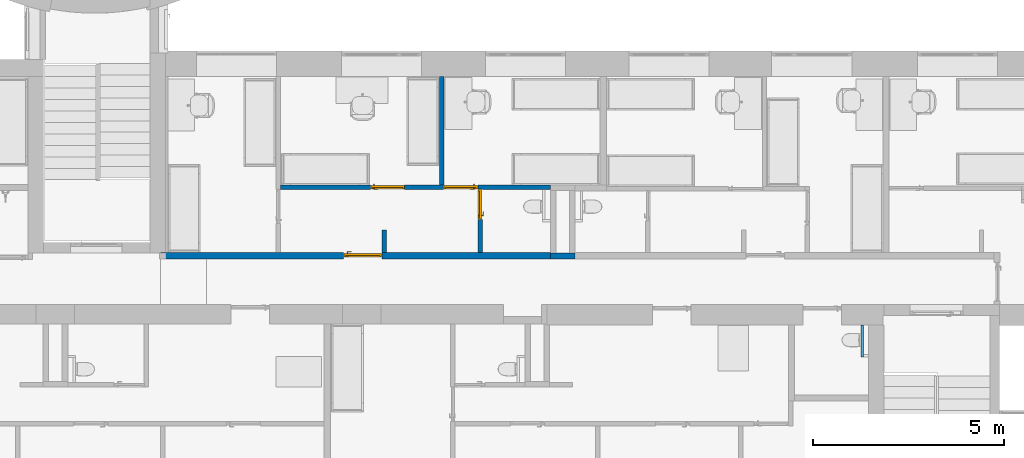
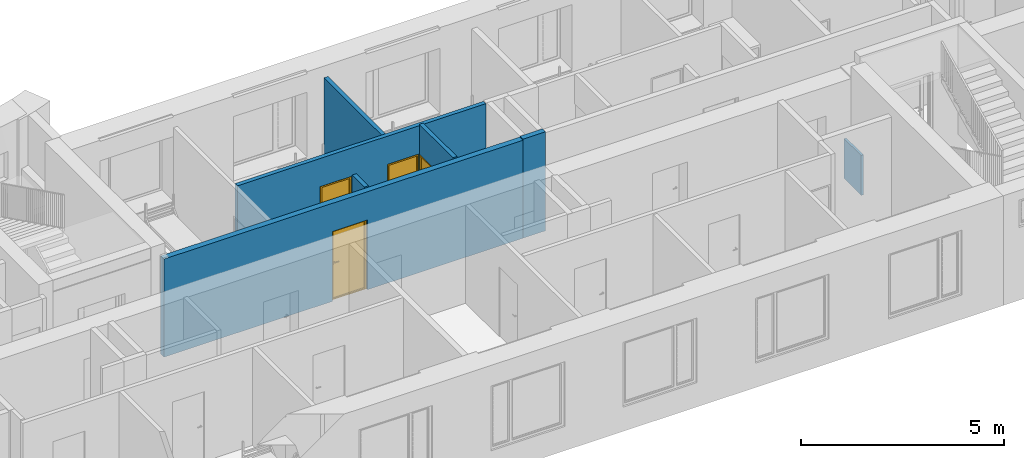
# One storey, part 11 of 46: 7 walls, 4 doors, 5 openings.
"""IFC2X3 building model written with IfcOpenShell, lengths in millimetres."""

from ifc_helpers import new_model, entity, si_unit, converted_unit, derived_unit, direction, frame, frame_2d, origin, place, context, subcontext, project, spatial, rectangle, extrude, faceted_brep, source, transform, mapped, material, material_list, layer, layer_set, layer_usage, type_object, type_shapes, element, fill, save


model = new_model("IFC2X3")

# Units and contexts
model_context = context("Model", 3, precision=0.01, world=origin(), true_north=direction((6.12303176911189e-17, 1.0)))
body_context = subcontext(model_context, "Body", "Model", "MODEL_VIEW")
ifc_project = project(units=[si_unit("LENGTHUNIT", "METRE", prefix="MILLI"), si_unit("AREAUNIT", "SQUARE_METRE"), si_unit("VOLUMEUNIT", "CUBIC_METRE"), converted_unit("PLANEANGLEUNIT", "DEGREE", entity("IfcRatioMeasure", 0.0174532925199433), si_unit("PLANEANGLEUNIT", "RADIAN"), dimensions=[0, 0, 0, 0, 0, 0, 0]), si_unit("MASSUNIT", "GRAM", prefix="KILO"), derived_unit("MASSDENSITYUNIT", [(si_unit("MASSUNIT", "GRAM", prefix="KILO"), 1), (si_unit("LENGTHUNIT", "METRE"), -3)]), si_unit("TIMEUNIT", "SECOND"), si_unit("FREQUENCYUNIT", "HERTZ"), si_unit("THERMODYNAMICTEMPERATUREUNIT", "DEGREE_CELSIUS"), derived_unit("THERMALTRANSMITTANCEUNIT", [(si_unit("MASSUNIT", "GRAM", prefix="KILO"), 1), (si_unit("THERMODYNAMICTEMPERATUREUNIT", "KELVIN"), -1), (si_unit("TIMEUNIT", "SECOND"), -3)]), derived_unit("VOLUMETRICFLOWRATEUNIT", [(si_unit("LENGTHUNIT", "METRE"), 3), (si_unit("TIMEUNIT", "SECOND"), -1)]), si_unit("ELECTRICCURRENTUNIT", "AMPERE"), si_unit("ELECTRICVOLTAGEUNIT", "VOLT"), si_unit("POWERUNIT", "WATT"), si_unit("FORCEUNIT", "NEWTON", prefix="KILO"), si_unit("ILLUMINANCEUNIT", "LUX"), si_unit("LUMINOUSFLUXUNIT", "LUMEN"), si_unit("LUMINOUSINTENSITYUNIT", "CANDELA"), derived_unit("USERDEFINED", [(si_unit("MASSUNIT", "GRAM", prefix="KILO"), -1), (si_unit("LENGTHUNIT", "METRE"), -2), (si_unit("TIMEUNIT", "SECOND"), 3), (si_unit("LUMINOUSFLUXUNIT", "LUMEN"), 1)]), derived_unit("LINEARVELOCITYUNIT", [(si_unit("LENGTHUNIT", "METRE"), 1), (si_unit("TIMEUNIT", "SECOND"), -1)]), si_unit("PRESSUREUNIT", "PASCAL"), derived_unit("USERDEFINED", [(si_unit("LENGTHUNIT", "METRE"), -2), (si_unit("MASSUNIT", "GRAM", prefix="KILO"), 1), (si_unit("TIMEUNIT", "SECOND"), -2)]), derived_unit("LINEARFORCEUNIT", [(si_unit("MASSUNIT", "GRAM", prefix="KILO"), 1), (si_unit("LENGTHUNIT", "METRE"), 1), (si_unit("TIMEUNIT", "SECOND"), -2), (si_unit("LENGTHUNIT", "METRE"), -1)]), derived_unit("PLANARFORCEUNIT", [(si_unit("MASSUNIT", "GRAM", prefix="KILO"), 1), (si_unit("LENGTHUNIT", "METRE"), 1), (si_unit("TIMEUNIT", "SECOND"), -2), (si_unit("LENGTHUNIT", "METRE"), -2)])], contexts=[model_context])

# Site, building, storey
site_placement = place(None, origin())
site = spatial("IfcSite", under=ifc_project, at=site_placement, Name="Default", CompositionType="ELEMENT")
building_placement = place(site_placement, origin())
building = spatial("IfcBuilding", under=site, at=building_placement, Name="SMA ARH", CompositionType="ELEMENT")
storey_placement = place(building_placement, origin())
storey = spatial("IfcBuildingStorey", under=building, at=storey_placement, Name="1 Korrus", CompositionType="ELEMENT", Elevation=0.0)

# Wall
ifc_material_1 = material(Name="EST. Müüritis. Väikeplokk. Kergkruusplokk")
ifc_layer_1 = layer(ifc_material_1, 150.0)
ifc_layer_set_1 = layer_set([ifc_layer_1], Name="Basic Wall:SS-02_ 150mm šahtide vahesein")
ifc_layer_usage_1 = layer_usage(ifc_layer_set_1, "AXIS2", "POSITIVE", -75.0)
wall_type_1 = type_object("IfcWallType", Name="Basic Wall:SS-02_ 150mm šahtide vahesein", PredefinedType="STANDARD", material=ifc_layer_set_1)
wall_1_placement = place(storey_placement, frame((22737.2884818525, 7795.0, 0.0), z_axis=(0.0, 0.0, 1.0), x_axis=(-1.0, 0.0, 0.0)))
element("IfcWallStandardCase", 1, at=wall_1_placement, inside=storey, type_object=wall_type_1, material=ifc_layer_usage_1, Name="Basic Wall:SS-02_ 150mm šahtide vahesein", ObjectType="Basic Wall:SS-02_ 150mm šahtide vahesein", context=body_context, shape_type="SweptSolid", body=[
    extrude(rectangle(XDim=650.000000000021, YDim=150.000000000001, at=frame_2d((325.000000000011, 4.68958205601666e-13), x_axis=(-1.0, 0.0))), origin(), (0.0, 0.0, 1.0), 2979.99999999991),
])

# Wall, opening, door
ifc_material_2 = material(Name="EST. Ehitusplaat. Kipsplaat")
ifc_layer_2 = layer(ifc_material_2, 12.5)
ifc_layer_3 = layer(ifc_material_2, 12.5)
ifc_material_3 = material(Name="EST. Soojustus. Mineraalvill. Default")
ifc_layer_4 = layer(ifc_material_3, 50.0)
ifc_layer_5 = layer(ifc_material_2, 12.5)
ifc_layer_6 = layer(ifc_material_3, 50.0)
ifc_layer_7 = layer(ifc_material_2, 12.5)
ifc_layer_8 = layer(ifc_material_2, 12.5)
ifc_layer_set_2 = layer_set([ifc_layer_2, ifc_layer_3, ifc_layer_4, ifc_layer_5, ifc_layer_6, ifc_layer_7, ifc_layer_8], Name="Basic Wall:SS-04_Kips, 50+50 mm metallkarkass 2")
ifc_layer_usage_2 = layer_usage(ifc_layer_set_2, "AXIS2", "NEGATIVE", 81.25)
wall_type_2 = type_object("IfcWallType", Name="Basic Wall:SS-04_Kips, 50+50 mm metallkarkass 2", PredefinedType="STANDARD", material=ifc_layer_set_2)
wall_2_placement = place(storey_placement, frame((11871.2500000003, 7801.25000000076, 0.0)))
wall_2 = element("IfcWallStandardCase", 2, at=wall_2_placement, inside=storey, type_object=wall_type_2, material=ifc_layer_usage_2, Name="Basic Wall:SS-04_Kips, 50+50 mm metallkarkass 2", ObjectType="Basic Wall:SS-04_Kips, 50+50 mm metallkarkass 2", context=body_context, shape_type="SweptSolid", body=[
    extrude(rectangle(XDim=10216.0384818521, YDim=162.5, at=frame_2d((5108.01924092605, 6.3948846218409e-14), x_axis=(-1.0, 0.0))), origin(), (0.0, 0.0, 1.0), 2949.99999999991),
])
opening_1_placement = place(wall_2_placement, frame((4800.75000000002, -81.2500000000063, 0.0)))
opening_1 = element("IfcOpeningElement", 3, at=opening_1_placement, cuts=wall_2, Name="SMA_D01, 1-poolne:SU-P-04 - 1000x2100 EI-30:1", ObjectType="Opening", context=body_context, shape_type="SweptSolid", body=[
    extrude(rectangle(XDim=2099.99999999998, YDim=1000.0, at=frame_2d((1049.99999999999, 500.0), x_axis=(1.0, 0.0))), frame((0.0, 0.0, 0.0), z_axis=(0.0, 1.0, 0.0), x_axis=(0.0, 0.0, 1.0)), (0.0, 0.0, 1.0), 162.5),
])
ifc_material_4 = material(Name="EST. Metall. Alumiinium. Värvitud. RAL7023 (Concrete grey)")
ifc_material_5 = material(Name="<Unnamed>")
ifc_material_6 = material(Name="EST. Klaas. 3x. Default")
ifc_material_list_1 = material_list([ifc_material_5, ifc_material_6, ifc_material_5, ifc_material_4, ifc_material_5, ifc_material_4, ifc_material_4])
door_style_1 = type_object("IfcDoorStyle", Name="SMA_D01, 1-poolne:SU-P-04 - 1000x2100 EI-30", ConstructionType="NOTDEFINED", OperationType="SINGLE_SWING_RIGHT", ParameterTakesPrecedence=False, Sizeable=False, material=ifc_material_list_1)
shared_shape_1 = source(origin(), body_context, "Body", "Brep", [
    faceted_brep([(110.0, 52.5000000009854, 1112.5), (110.0, 90.5000000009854, 1112.5), (85.0, 90.5000000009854, 1112.5), (85.0, 47.5000000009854, 1112.5), (205.0, 47.5000000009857, 1112.5), (205.0, 52.5000000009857, 1112.5), (110.0, 52.5000000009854, 1087.5), (205.0, 52.5000000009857, 1087.5), (205.0, 47.5000000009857, 1087.5), (85.0, 47.5000000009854, 1087.5), (85.0, 90.5000000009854, 1087.5), (110.0, 90.5000000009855, 1087.5)], [[[0, 1, 2, 3, 4, 5]], [[6, 7, 8, 9, 10, 11]], [[1, 0, 6, 11]], [[2, 1, 11, 10]], [[3, 2, 10, 9]], [[4, 3, 9, 8]], [[5, 4, 8, 7]], [[0, 5, 7, 6]]]),
    faceted_brep([(122.499999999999, 90.5000000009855, 1137.5), (122.499999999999, 92.5000000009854, 1137.5), (72.4999999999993, 92.5000000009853, 1137.5), (72.4999999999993, 90.5000000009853, 1137.5), (122.499999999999, 90.5000000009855, 1017.5), (72.4999999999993, 90.5000000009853, 1017.5), (72.4999999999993, 92.5000000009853, 1017.5), (122.499999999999, 92.5000000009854, 1017.5)], [[[0, 1, 2, 3]], [[4, 5, 6, 7]], [[1, 0, 4, 7]], [[2, 1, 7, 6]], [[3, 2, 6, 5]], [[0, 3, 5, 4]]]),
    faceted_brep([(110.0, 182.500000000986, 1112.5), (205.0, 182.500000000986, 1112.5), (205.0, 187.500000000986, 1112.5), (85.0, 187.500000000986, 1112.5), (85.0, 144.500000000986, 1112.5), (110.0, 144.500000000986, 1112.5), (110.0, 182.500000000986, 1087.5), (110.0, 144.500000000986, 1087.5), (85.0, 144.500000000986, 1087.5), (85.0, 187.500000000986, 1087.5), (205.0, 187.500000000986, 1087.5), (205.0, 182.500000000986, 1087.5)], [[[0, 1, 2, 3, 4, 5]], [[6, 7, 8, 9, 10, 11]], [[5, 7, 6, 0]], [[4, 8, 7, 5]], [[3, 9, 8, 4]], [[2, 10, 9, 3]], [[1, 11, 10, 2]], [[0, 6, 11, 1]]]),
    faceted_brep([(122.499999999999, 144.500000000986, 1137.5), (72.4999999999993, 144.500000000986, 1137.5), (72.4999999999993, 142.500000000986, 1137.5), (122.499999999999, 142.500000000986, 1137.5), (122.499999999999, 144.500000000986, 1017.5), (122.499999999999, 142.500000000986, 1017.5), (72.4999999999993, 142.500000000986, 1017.5), (72.4999999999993, 144.500000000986, 1017.5)], [[[0, 1, 2, 3]], [[4, 5, 6, 7]], [[3, 5, 4, 0]], [[2, 6, 5, 3]], [[1, 7, 6, 2]], [[0, 4, 7, 1]]]),
    faceted_brep([(950.0, 52.5000000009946, 30.0), (950.0, 52.5000000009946, 0.0), (950.0, 92.5000000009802, 0.0), (950.0, 92.5000000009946, 20.0), (950.0, 92.5000000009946, 30.0), (50.0, 52.5000000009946, 30.0), (50.0, 92.5000000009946, 30.0), (50.0, 92.5000000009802, 20.0), (50.0, 92.5000000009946, 0.0), (50.0, 52.5000000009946, 0.0), (35.0, 92.5000000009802, 0.0), (35.0, 142.500000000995, 0.0), (965.0, 142.500000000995, 0.0), (965.0, 92.5000000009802, 0.0), (965.0, 142.500000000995, 20.0), (965.0, 92.5000000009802, 20.0), (35.0, 142.500000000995, 20.0), (35.0, 92.5000000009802, 20.0)], [[[0, 1, 2, 3, 4]], [[5, 6, 7, 8, 9]], [[1, 0, 5, 9]], [[2, 1, 9, 8, 10, 11, 12, 13]], [[6, 4, 3, 7]], [[0, 4, 6, 5]], [[14, 15, 13, 12]], [[16, 11, 10, 17]], [[15, 14, 16, 17, 7, 3]], [[13, 15, 3, 2]], [[14, 12, 11, 16]], [[17, 10, 8, 7]]]),
    faceted_brep([(990.0, 52.5000000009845, 0.0), (950.0, 52.5000000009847, 0.0), (950.0, 92.5000000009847, 0.0), (965.0, 92.5000000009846, 0.0), (965.0, 142.500000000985, 0.0), (990.0, 142.500000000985, 0.0), (990.0, 52.5000000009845, 2090.0), (10.0, 52.5000000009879, 2090.0), (10.0, 52.5000000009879, 0.0), (50.0, 52.5000000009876, 0.0), (50.0, 52.5000000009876, 2050.0), (950.0, 52.5000000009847, 2050.0), (950.0, 92.5000000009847, 2050.0), (50.0, 92.5000000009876, 2050.0), (50.0, 92.5000000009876, 0.0), (35.0, 92.5000000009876, 0.0), (35.0, 92.5000000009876, 2065.0), (965.0, 92.5000000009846, 2065.0), (965.0, 142.500000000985, 2065.0), (35.0, 142.500000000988, 2065.0), (35.0, 142.500000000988, 0.0), (10.0, 142.500000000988, 0.0), (10.0, 142.500000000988, 2090.0), (990.0, 142.500000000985, 2090.0)], [[[0, 1, 2, 3, 4, 5]], [[1, 0, 6, 7, 8, 9, 10, 11]], [[2, 1, 11, 12]], [[3, 2, 12, 13, 14, 15, 16, 17]], [[4, 3, 17, 18]], [[5, 4, 18, 19, 20, 21, 22, 23]], [[0, 5, 23, 6]], [[8, 7, 22, 21]], [[9, 8, 21, 20, 15, 14]], [[10, 9, 14, 13]], [[16, 15, 20, 19]], [[11, 10, 13, 12]], [[17, 16, 19, 18]], [[7, 6, 23, 22]]]),
    faceted_brep([(35.0, 92.5000000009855, 2065.0), (35.0, 92.5000000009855, 20.0), (965.0, 92.5000000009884, 20.0), (965.0, 92.5000000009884, 2065.0), (35.0, 142.500000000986, 2065.0), (965.0, 142.500000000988, 2065.0), (965.0, 142.500000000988, 20.0), (35.0, 142.500000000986, 20.0)], [[[0, 1, 2, 3]], [[4, 5, 6, 7]], [[1, 0, 4, 7]], [[2, 1, 7, 6]], [[3, 2, 6, 5]], [[0, 3, 5, 4]]]),
])
type_shapes(door_style_1, [shared_shape_1])
door_1_placement = place(opening_1_placement, origin())
door_1 = element("IfcDoor", 4, at=door_1_placement, inside=storey, type_object=door_style_1, material=ifc_material_4, Name="SMA_D01, 1-poolne:SU-P-04 - 1000x2100 EI-30", ObjectType="SMA_D01, 1-poolne:SU-P-04 - 1000x2100 EI-30", OverallHeight=2099.99999999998, OverallWidth=1000.0, context=body_context, shape_type="MappedRepresentation", body=[
    mapped(shared_shape_1, transform((0.0, 0.0, 0.0), scale=1.0)),
])
fill(opening_1, door_1)

# Wall
ifc_layer_9 = layer(ifc_material_2, 12.5)
ifc_layer_10 = layer(ifc_material_2, 12.5)
ifc_layer_11 = layer(ifc_material_3, 66.0)
ifc_layer_12 = layer(ifc_material_2, 12.5)
ifc_layer_13 = layer(ifc_material_2, 12.5)
ifc_layer_set_3 = layer_set([ifc_layer_9, ifc_layer_10, ifc_layer_11, ifc_layer_12, ifc_layer_13], Name="Basic Wall:SS-05_Kips, 66mm metallkarkass")
ifc_layer_usage_3 = layer_usage(ifc_layer_set_3, "AXIS2", "NEGATIVE", 58.0)
wall_type_3 = type_object("IfcWallType", Name="Basic Wall:SS-05_Kips, 66mm metallkarkass", PredefinedType="STANDARD", material=ifc_layer_set_3)
wall_3_placement = place(storey_placement, frame((19243.5000000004, 12500.0, 0.0), z_axis=(0.0, 0.0, 1.0), x_axis=(0.0, -1.0, 0.0)))
element("IfcWallStandardCase", 5, at=wall_3_placement, inside=storey, type_object=wall_type_3, material=ifc_layer_usage_3, Name="Basic Wall:SS-05_Kips, 66mm metallkarkass", ObjectType="Basic Wall:SS-05_Kips, 66mm metallkarkass", context=body_context, shape_type="SweptSolid", body=[
    extrude(rectangle(XDim=2842.99999999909, YDim=116.0, at=frame_2d((1421.49999999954, -2.38031816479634e-13), x_axis=(-1.0, 0.0))), origin(), (0.0, 0.0, 1.0), 2949.99999999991),
])

# Wall, openings, doors
ifc_layer_usage_4 = layer_usage(ifc_layer_set_3, "AXIS2", "NEGATIVE", 58.0)
wall_4_placement = place(storey_placement, frame((15015.5000000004, 9599.0, 0.0)))
wall_4 = element("IfcWallStandardCase", 6, at=wall_4_placement, inside=storey, type_object=wall_type_3, material=ifc_layer_usage_4, Name="Basic Wall:SS-05_Kips, 66mm metallkarkass", ObjectType="Basic Wall:SS-05_Kips, 66mm metallkarkass", context=body_context, shape_type="SweptSolid", body=[
    extrude(rectangle(XDim=7071.78848185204, YDim=116.0, at=frame_2d((3535.89424092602, -6.75015598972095e-14), x_axis=(-1.0, 0.0))), origin(), (0.0, 0.0, 1.0), 2949.99999999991),
])
opening_2_placement = place(wall_4_placement, origin())
element("IfcOpeningElement", 7, at=opening_2_placement, cuts=wall_4, Name="Basic Wall:SS-05_Kips, 66mm metallkarkass", ObjectType="Opening", context=body_context, shape_type="SweptSolid", body=[
    extrude(rectangle(XDim=2099.99999999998, YDim=116.0, at=frame_2d((0.0, 0.0), x_axis=(0.0, 1.0))), frame((5233.49999999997, -845.500000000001, 1050.0), z_axis=(0.0, 1.0, 0.0), x_axis=(-1.0, 0.0, 0.0)), (0.0, 0.0, 1.0), 800.0),
])
opening_3_placement = place(wall_4_placement, frame((2355.49999999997, -58.0, 0.0)))
opening_3 = element("IfcOpeningElement", 8, at=opening_3_placement, cuts=wall_4, Name="SMA_D01, 1-poolne:SU-P-05 - 900x2100 TUBA:1", ObjectType="Opening", context=body_context, shape_type="SweptSolid", body=[
    extrude(rectangle(XDim=2099.99999999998, YDim=900.0, at=frame_2d((1049.99999999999, 450.0), x_axis=(1.0, 0.0))), frame((0.0, 0.0, 0.0), z_axis=(0.0, 1.0, 0.0), x_axis=(0.0, 0.0, 1.0)), (0.0, 0.0, 1.0), 116.0),
])
opening_4_placement = place(wall_4_placement, frame((4273.49999999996, -58.0, 0.0)))
opening_4 = element("IfcOpeningElement", 9, at=opening_4_placement, cuts=wall_4, Name="SMA_D01, 1-poolne:SU-P-05 - 900x2100 TUBA:1", ObjectType="Opening", context=body_context, shape_type="SweptSolid", body=[
    extrude(rectangle(XDim=2099.99999999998, YDim=900.0, at=frame_2d((1049.99999999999, 450.000000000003), x_axis=(1.0, 0.0))), frame((0.0, 0.0, 0.0), z_axis=(0.0, 1.0, 0.0), x_axis=(0.0, 0.0, 1.0)), (0.0, 0.0, 1.0), 116.0),
])
ifc_material_list_2 = material_list([ifc_material_4, ifc_material_5, ifc_material_4, ifc_material_5, ifc_material_5, ifc_material_6, ifc_material_4])
door_style_2 = type_object("IfcDoorStyle", Name="SMA_D01, 1-poolne:SU-P-05 - 900x2100 TUBA", ConstructionType="NOTDEFINED", OperationType="SINGLE_SWING_LEFT", ParameterTakesPrecedence=False, Sizeable=False, material=ifc_material_list_2)
shared_shape_2 = source(origin(), body_context, "Body", "Brep", [
    faceted_brep([(790.0, 6.0, 1112.5), (695.0, 6.0, 1112.5), (695.0, 1.0, 1112.5), (815.0, 1.0, 1112.5), (815.0, 44.0, 1112.5), (790.0, 44.0, 1112.5), (790.0, 6.0, 1087.5), (790.0, 44.0, 1087.5), (815.0, 44.0, 1087.5), (815.0, 1.0, 1087.5), (695.0, 1.0, 1087.5), (695.0, 6.0, 1087.5)], [[[0, 1, 2, 3, 4, 5]], [[6, 7, 8, 9, 10, 11]], [[5, 7, 6, 0]], [[4, 8, 7, 5]], [[3, 9, 8, 4]], [[2, 10, 9, 3]], [[1, 11, 10, 2]], [[0, 6, 11, 1]]]),
    faceted_brep([(777.500000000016, 44.0, 1137.5), (827.500000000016, 44.0, 1137.5), (827.500000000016, 46.0, 1137.5), (777.500000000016, 46.0, 1137.5), (777.500000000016, 44.0, 1017.5), (777.500000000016, 46.0, 1017.5), (827.500000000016, 46.0, 1017.5), (827.500000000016, 44.0, 1017.5)], [[[0, 1, 2, 3]], [[4, 5, 6, 7]], [[3, 5, 4, 0]], [[2, 6, 5, 3]], [[1, 7, 6, 2]], [[0, 4, 7, 1]]]),
    faceted_brep([(790.0, 136.0, 1112.5), (790.0, 98.0, 1112.5), (815.0, 98.0, 1112.5), (815.0, 141.0, 1112.5), (695.0, 141.0, 1112.5), (695.0, 136.0, 1112.5), (790.0, 136.0, 1087.5), (695.0, 136.0, 1087.5), (695.0, 141.0, 1087.5), (815.0, 141.0, 1087.5), (815.0, 98.0, 1087.5), (790.0, 98.0, 1087.5)], [[[0, 1, 2, 3, 4, 5]], [[6, 7, 8, 9, 10, 11]], [[1, 0, 6, 11]], [[2, 1, 11, 10]], [[3, 2, 10, 9]], [[4, 3, 9, 8]], [[5, 4, 8, 7]], [[0, 5, 7, 6]]]),
    faceted_brep([(777.500000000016, 98.0, 1137.5), (777.500000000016, 96.0, 1137.5), (827.500000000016, 96.0, 1137.5), (827.500000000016, 98.0, 1137.5), (777.500000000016, 98.0, 1017.5), (827.500000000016, 98.0, 1017.5), (827.500000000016, 96.0, 1017.5), (777.500000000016, 96.0, 1017.5)], [[[0, 1, 2, 3]], [[4, 5, 6, 7]], [[1, 0, 4, 7]], [[2, 1, 7, 6]], [[3, 2, 6, 5]], [[0, 3, 5, 4]]]),
    faceted_brep([(50.0, 6.0, 30.0), (50.0, 46.0, 30.0), (50.0, 46.0, 20.0), (50.0, 46.0, 0.0), (50.0, 6.0, 0.0), (850.0, 6.0, 30.0), (850.0, 6.0, 0.0), (850.0, 46.0, 0.0), (850.0, 46.0, 20.0), (850.0, 46.0, 30.0), (35.0, 46.0, 0.0), (35.0, 96.0, 0.0), (865.0, 96.0, 0.0), (865.0, 46.0, 0.0), (35.0, 96.0, 20.0), (35.0, 46.0, 20.0), (865.0, 96.0, 20.0), (865.0, 46.0, 20.0)], [[[0, 1, 2, 3, 4]], [[5, 6, 7, 8, 9]], [[4, 6, 5, 0]], [[3, 10, 11, 12, 13, 7, 6, 4]], [[9, 8, 2, 1]], [[0, 5, 9, 1]], [[14, 11, 10, 15]], [[16, 17, 13, 12]], [[15, 2, 8, 17, 16, 14]], [[10, 3, 2, 15]], [[14, 16, 12, 11]], [[17, 8, 7, 13]]]),
    faceted_brep([(10.0, 6.0, 0.0), (10.0, 96.0, 0.0), (35.0, 96.0, 0.0), (35.0, 46.0, 0.0), (50.0, 46.0, 0.0), (50.0, 6.0, 0.0), (50.0, 6.0, 2050.0), (850.0, 6.0, 2050.0), (850.0, 6.0, 0.0), (890.0, 6.0, 0.0), (890.0, 6.0, 2090.0), (10.0, 6.0, 2090.0), (50.0, 46.0, 2050.0), (35.0, 46.0, 2065.0), (865.0, 46.0, 2065.0), (865.0, 46.0, 0.0), (850.0, 46.0, 0.0), (850.0, 46.0, 2050.0), (35.0, 96.0, 2065.0), (10.0, 96.0, 2090.0), (890.0, 96.0, 2090.0), (890.0, 96.0, 0.0), (865.0, 96.0, 0.0), (865.0, 96.0, 2065.0)], [[[0, 1, 2, 3, 4, 5]], [[5, 6, 7, 8, 9, 10, 11, 0]], [[4, 12, 6, 5]], [[3, 13, 14, 15, 16, 17, 12, 4]], [[2, 18, 13, 3]], [[1, 19, 20, 21, 22, 23, 18, 2]], [[0, 11, 19, 1]], [[9, 21, 20, 10]], [[8, 16, 15, 22, 21, 9]], [[7, 17, 16, 8]], [[14, 23, 22, 15]], [[6, 12, 17, 7]], [[13, 18, 23, 14]], [[10, 20, 19, 11]]]),
    faceted_brep([(865.0, 46.0, 2065.0), (35.0, 46.0, 2065.0), (35.0, 46.0, 20.0), (865.0, 46.0, 20.0), (865.0, 96.0, 2065.0), (865.0, 96.0, 20.0), (35.0, 96.0, 20.0), (35.0, 96.0, 2065.0)], [[[0, 1, 2, 3]], [[4, 5, 6, 7]], [[3, 5, 4, 0]], [[2, 6, 5, 3]], [[1, 7, 6, 2]], [[0, 4, 7, 1]]]),
])
type_shapes(door_style_2, [shared_shape_2])
door_2_placement = place(opening_4_placement, origin())
door_2 = element("IfcDoor", 10, at=door_2_placement, inside=storey, type_object=door_style_2, material=ifc_material_4, Name="SMA_D01, 1-poolne:SU-P-05 - 900x2100 TUBA", ObjectType="SMA_D01, 1-poolne:SU-P-05 - 900x2100 TUBA", OverallHeight=2099.99999999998, OverallWidth=900.000000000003, context=body_context, shape_type="MappedRepresentation", body=[
    mapped(shared_shape_2, transform((0.0, 0.0, 0.0), scale=1.0)),
])
fill(opening_4, door_2)
ifc_material_list_3 = material_list([ifc_material_5, ifc_material_6, ifc_material_5, ifc_material_4, ifc_material_4, ifc_material_4, ifc_material_5])
door_style_3 = type_object("IfcDoorStyle", Name="SMA_D01, 1-poolne:SU-P-05 - 900x2100 TUBA", ConstructionType="NOTDEFINED", OperationType="SINGLE_SWING_RIGHT", ParameterTakesPrecedence=False, Sizeable=False, material=ifc_material_list_3)
shared_shape_3 = source(origin(), body_context, "Body", "Brep", [
    faceted_brep([(110.0, 6.0, 1112.5), (110.0, 44.0, 1112.5), (85.0, 44.0, 1112.5), (85.0, 1.0, 1112.5), (205.0, 1.0, 1112.5), (205.0, 6.0, 1112.5), (110.0, 6.0, 1087.5), (205.0, 6.0, 1087.5), (205.0, 1.0, 1087.5), (85.0, 1.0, 1087.5), (85.0, 44.0, 1087.5), (110.0, 44.0, 1087.5)], [[[0, 1, 2, 3, 4, 5]], [[6, 7, 8, 9, 10, 11]], [[1, 0, 6, 11]], [[2, 1, 11, 10]], [[3, 2, 10, 9]], [[4, 3, 9, 8]], [[5, 4, 8, 7]], [[0, 5, 7, 6]]]),
    faceted_brep([(122.5, 44.0, 1137.5), (122.5, 46.0, 1137.5), (72.5000000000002, 46.0, 1137.5), (72.5000000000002, 44.0, 1137.5), (122.5, 44.0, 1017.5), (72.5000000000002, 44.0, 1017.5), (72.5000000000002, 46.0, 1017.5), (122.5, 46.0, 1017.5)], [[[0, 1, 2, 3]], [[4, 5, 6, 7]], [[1, 0, 4, 7]], [[2, 1, 7, 6]], [[3, 2, 6, 5]], [[0, 3, 5, 4]]]),
    faceted_brep([(110.0, 136.0, 1112.5), (205.0, 136.0, 1112.5), (205.0, 141.0, 1112.5), (85.0, 141.0, 1112.5), (85.0, 98.0, 1112.5), (110.0, 98.0, 1112.5), (110.0, 136.0, 1087.5), (110.0, 98.0, 1087.5), (85.0, 98.0, 1087.5), (85.0, 141.0, 1087.5), (205.0, 141.0, 1087.5), (205.0, 136.0, 1087.5)], [[[0, 1, 2, 3, 4, 5]], [[6, 7, 8, 9, 10, 11]], [[5, 7, 6, 0]], [[4, 8, 7, 5]], [[3, 9, 8, 4]], [[2, 10, 9, 3]], [[1, 11, 10, 2]], [[0, 6, 11, 1]]]),
    faceted_brep([(122.5, 98.0, 1137.5), (72.5000000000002, 98.0, 1137.5), (72.5000000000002, 96.0, 1137.5), (122.5, 96.0, 1137.5), (122.5, 98.0, 1017.5), (122.5, 96.0, 1017.5), (72.5000000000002, 96.0, 1017.5), (72.5000000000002, 98.0, 1017.5)], [[[0, 1, 2, 3]], [[4, 5, 6, 7]], [[3, 5, 4, 0]], [[2, 6, 5, 3]], [[1, 7, 6, 2]], [[0, 4, 7, 1]]]),
    faceted_brep([(850.0, 6.0, 30.0), (850.0, 6.0, 0.0), (850.0, 46.0, 0.0), (850.0, 46.0, 20.0), (850.0, 46.0, 30.0), (50.0, 6.0, 30.0), (50.0, 46.0, 30.0), (50.0, 46.0, 20.0), (50.0, 46.0, 0.0), (50.0, 6.0, 0.0), (35.0, 46.0, 0.0), (35.0, 96.0, 0.0), (865.0, 96.0, 0.0), (865.0, 46.0, 0.0), (865.0, 96.0, 20.0), (865.0, 46.0, 20.0), (35.0, 96.0, 20.0), (35.0, 46.0, 20.0)], [[[0, 1, 2, 3, 4]], [[5, 6, 7, 8, 9]], [[1, 0, 5, 9]], [[2, 1, 9, 8, 10, 11, 12, 13]], [[6, 4, 3, 7]], [[0, 4, 6, 5]], [[14, 15, 13, 12]], [[16, 11, 10, 17]], [[15, 14, 16, 17, 7, 3]], [[13, 15, 3, 2]], [[14, 12, 11, 16]], [[17, 10, 8, 7]]]),
    faceted_brep([(890.0, 6.0, 0.0), (850.0, 6.0, 0.0), (850.0, 46.0, 0.0), (865.0, 46.0, 0.0), (865.0, 96.0, 0.0), (890.0, 96.0, 0.0), (890.0, 6.0, 2090.0), (10.0, 6.0, 2090.0), (10.0, 6.0, 0.0), (50.0, 6.0, 0.0), (50.0, 6.0, 2050.0), (850.0, 6.0, 2050.0), (850.0, 46.0, 2050.0), (50.0, 46.0, 2050.0), (50.0, 46.0, 0.0), (35.0, 46.0, 0.0), (35.0, 46.0, 2065.0), (865.0, 46.0, 2065.0), (865.0, 96.0, 2065.0), (35.0, 96.0, 2065.0), (35.0, 96.0, 0.0), (10.0, 96.0, 0.0), (10.0, 96.0, 2090.0), (890.0, 96.0, 2090.0)], [[[0, 1, 2, 3, 4, 5]], [[1, 0, 6, 7, 8, 9, 10, 11]], [[2, 1, 11, 12]], [[3, 2, 12, 13, 14, 15, 16, 17]], [[4, 3, 17, 18]], [[5, 4, 18, 19, 20, 21, 22, 23]], [[0, 5, 23, 6]], [[8, 7, 22, 21]], [[9, 8, 21, 20, 15, 14]], [[10, 9, 14, 13]], [[16, 15, 20, 19]], [[11, 10, 13, 12]], [[17, 16, 19, 18]], [[7, 6, 23, 22]]]),
    faceted_brep([(35.0, 46.0, 2065.0), (35.0, 46.0, 20.0), (865.0, 46.0, 20.0), (865.0, 46.0, 2065.0), (35.0, 96.0, 2065.0), (865.0, 96.0, 2065.0), (865.0, 96.0, 20.0), (35.0, 96.0, 20.0)], [[[0, 1, 2, 3]], [[4, 5, 6, 7]], [[1, 0, 4, 7]], [[2, 1, 7, 6]], [[3, 2, 6, 5]], [[0, 3, 5, 4]]]),
])
type_shapes(door_style_3, [shared_shape_3])
door_3_placement = place(opening_3_placement, origin())
door_3 = element("IfcDoor", 11, at=door_3_placement, inside=storey, type_object=door_style_3, material=ifc_material_4, Name="SMA_D01, 1-poolne:SU-P-05 - 900x2100 TUBA", ObjectType="SMA_D01, 1-poolne:SU-P-05 - 900x2100 TUBA", OverallHeight=2099.99999999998, OverallWidth=900.000000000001, context=body_context, shape_type="MappedRepresentation", body=[
    mapped(shared_shape_3, transform((0.0, 0.0, 0.0), scale=1.0)),
])
fill(opening_3, door_3)

# Wall, opening, door
ifc_layer_14 = layer(ifc_material_2, 12.5)
ifc_layer_15 = layer(ifc_material_2, 12.5)
ifc_material_7 = material(Name="EST. Õhkvahe. Roov. Kipsplaadi alusroov. Vertikaalne")
ifc_layer_16 = layer(ifc_material_7, 66.0)
ifc_layer_17 = layer(ifc_material_2, 12.5)
ifc_layer_18 = layer(ifc_material_2, 12.5)
ifc_layer_set_4 = layer_set([ifc_layer_14, ifc_layer_15, ifc_layer_16, ifc_layer_17, ifc_layer_18], Name="Basic Wall:SS-03_Kips, 66mm metallkarkass")
ifc_layer_usage_5 = layer_usage(ifc_layer_set_4, "AXIS2", "NEGATIVE", 58.0)
wall_type_4 = type_object("IfcWallType", Name="Basic Wall:SS-03_Kips, 66mm metallkarkass", PredefinedType="STANDARD", material=ifc_layer_set_4)
wall_5_placement = place(storey_placement, frame((20249.0, 7882.50000000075, 0.0), z_axis=(0.0, 0.0, 1.0), x_axis=(0.0, 1.0, 0.0)))
wall_5 = element("IfcWallStandardCase", 12, at=wall_5_placement, inside=storey, type_object=wall_type_4, material=ifc_layer_usage_5, Name="Basic Wall:SS-03_Kips, 66mm metallkarkass", ObjectType="Basic Wall:SS-03_Kips, 66mm metallkarkass", context=body_context, shape_type="SweptSolid", body=[
    extrude(rectangle(XDim=1658.50000000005, YDim=116.0, at=frame_2d((829.250000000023, 8.17124146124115e-14), x_axis=(-1.0, 0.0))), origin(), (0.0, 0.0, 1.0), 2989.99999999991),
])
opening_5_placement = place(wall_5_placement, frame((1671.0, 58.0, 0.0)))
opening_5 = element("IfcOpeningElement", 13, at=opening_5_placement, cuts=wall_5, Name="SMA_D01, 1-poolne:SU-P-06 - 800x2100 DUŠŠ:1", ObjectType="Opening", context=body_context, shape_type="SweptSolid", body=[
    extrude(rectangle(XDim=2099.99999999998, YDim=800.0, at=frame_2d((1049.99999999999, 400.0), x_axis=(1.0, 0.0))), frame((0.0, 0.0, 0.0), z_axis=(0.0, -1.0, 0.0), x_axis=(0.0, 0.0, 1.0)), (0.0, 0.0, 1.0), 116.0),
])
ifc_material_list_4 = material_list([ifc_material_6, ifc_material_4, ifc_material_5, ifc_material_4, ifc_material_5, ifc_material_4, ifc_material_5])
door_style_4 = type_object("IfcDoorStyle", Name="SMA_D01, 1-poolne:SU-P-06 - 800x2100 DUŠŠ", ConstructionType="NOTDEFINED", OperationType="SINGLE_SWING_LEFT", ParameterTakesPrecedence=False, Sizeable=False, material=ifc_material_list_4)
shared_shape_4 = source(origin(), body_context, "Body", "Brep", [
    faceted_brep([(690.0, 6.0, 1112.5), (595.0, 6.0, 1112.5), (595.0, 1.0, 1112.5), (715.0, 1.0, 1112.5), (715.0, 44.0, 1112.5), (690.0, 44.0, 1112.5), (690.0, 6.0, 1087.5), (690.0, 44.0, 1087.5), (715.0, 44.0, 1087.5), (715.0, 1.0, 1087.5), (595.0, 1.0, 1087.5), (595.0, 6.0, 1087.5)], [[[0, 1, 2, 3, 4, 5]], [[6, 7, 8, 9, 10, 11]], [[5, 7, 6, 0]], [[4, 8, 7, 5]], [[3, 9, 8, 4]], [[2, 10, 9, 3]], [[1, 11, 10, 2]], [[0, 6, 11, 1]]]),
    faceted_brep([(677.500000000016, 44.0, 1137.5), (727.500000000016, 44.0, 1137.5), (727.500000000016, 46.0, 1137.5), (677.500000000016, 46.0, 1137.5), (677.500000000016, 44.0, 1017.5), (677.500000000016, 46.0, 1017.5), (727.500000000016, 46.0, 1017.5), (727.500000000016, 44.0, 1017.5)], [[[0, 1, 2, 3]], [[4, 5, 6, 7]], [[3, 5, 4, 0]], [[2, 6, 5, 3]], [[1, 7, 6, 2]], [[0, 4, 7, 1]]]),
    faceted_brep([(690.0, 136.0, 1112.5), (690.0, 98.0, 1112.5), (715.0, 98.0, 1112.5), (715.0, 141.0, 1112.5), (595.0, 141.0, 1112.5), (595.0, 136.0, 1112.5), (690.0, 136.0, 1087.5), (595.0, 136.0, 1087.5), (595.0, 141.0, 1087.5), (715.0, 141.0, 1087.5), (715.0, 98.0, 1087.5), (690.0, 98.0, 1087.5)], [[[0, 1, 2, 3, 4, 5]], [[6, 7, 8, 9, 10, 11]], [[1, 0, 6, 11]], [[2, 1, 11, 10]], [[3, 2, 10, 9]], [[4, 3, 9, 8]], [[5, 4, 8, 7]], [[0, 5, 7, 6]]]),
    faceted_brep([(677.500000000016, 98.0, 1137.5), (677.500000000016, 96.0, 1137.5), (727.500000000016, 96.0, 1137.5), (727.500000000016, 98.0, 1137.5), (677.500000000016, 98.0, 1017.5), (727.500000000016, 98.0, 1017.5), (727.500000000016, 96.0, 1017.5), (677.500000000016, 96.0, 1017.5)], [[[0, 1, 2, 3]], [[4, 5, 6, 7]], [[1, 0, 4, 7]], [[2, 1, 7, 6]], [[3, 2, 6, 5]], [[0, 3, 5, 4]]]),
    faceted_brep([(50.0, 6.0, 30.0), (50.0, 46.0, 30.0), (50.0, 46.0, 20.0), (50.0, 46.0, 0.0), (50.0, 6.0, 0.0), (750.0, 6.0, 30.0), (750.0, 6.0, 0.0), (750.0, 46.0, 0.0), (750.0, 46.0, 20.0), (750.0, 46.0, 30.0), (35.0, 46.0, 0.0), (35.0, 96.0, 0.0), (765.0, 96.0, 0.0), (765.0, 46.0, 0.0), (35.0, 96.0, 20.0), (35.0, 46.0, 20.0), (765.0, 96.0, 20.0), (765.0, 46.0, 20.0)], [[[0, 1, 2, 3, 4]], [[5, 6, 7, 8, 9]], [[4, 6, 5, 0]], [[3, 10, 11, 12, 13, 7, 6, 4]], [[9, 8, 2, 1]], [[0, 5, 9, 1]], [[14, 11, 10, 15]], [[16, 17, 13, 12]], [[15, 2, 8, 17, 16, 14]], [[10, 3, 2, 15]], [[14, 16, 12, 11]], [[17, 8, 7, 13]]]),
    faceted_brep([(10.0, 6.0, 0.0), (10.0, 96.0, 0.0), (35.0, 96.0, 0.0), (35.0, 46.0, 0.0), (50.0, 46.0, 0.0), (50.0, 6.0, 0.0), (50.0, 6.0, 2050.0), (750.0, 6.0, 2050.0), (750.0, 6.0, 0.0), (790.0, 6.0, 0.0), (790.0, 6.0, 2090.0), (10.0, 6.0, 2090.0), (50.0, 46.0, 2050.0), (35.0, 46.0, 2065.0), (765.0, 46.0, 2065.0), (765.0, 46.0, 0.0), (750.0, 46.0, 0.0), (750.0, 46.0, 2050.0), (35.0, 96.0, 2065.0), (10.0, 96.0, 2090.0), (790.0, 96.0, 2090.0), (790.0, 96.0, 0.0), (765.0, 96.0, 0.0), (765.0, 96.0, 2065.0)], [[[0, 1, 2, 3, 4, 5]], [[5, 6, 7, 8, 9, 10, 11, 0]], [[4, 12, 6, 5]], [[3, 13, 14, 15, 16, 17, 12, 4]], [[2, 18, 13, 3]], [[1, 19, 20, 21, 22, 23, 18, 2]], [[0, 11, 19, 1]], [[9, 21, 20, 10]], [[8, 16, 15, 22, 21, 9]], [[7, 17, 16, 8]], [[14, 23, 22, 15]], [[6, 12, 17, 7]], [[13, 18, 23, 14]], [[10, 20, 19, 11]]]),
    faceted_brep([(765.0, 46.0, 2065.0), (35.0, 46.0, 2065.0), (35.0, 46.0, 20.0), (765.0, 46.0, 20.0), (765.0, 96.0, 2065.0), (765.0, 96.0, 20.0), (35.0, 96.0, 20.0), (35.0, 96.0, 2065.0)], [[[0, 1, 2, 3]], [[4, 5, 6, 7]], [[3, 5, 4, 0]], [[2, 6, 5, 3]], [[1, 7, 6, 2]], [[0, 4, 7, 1]]]),
])
type_shapes(door_style_4, [shared_shape_4])
door_4_placement = place(opening_5_placement, frame((0.0, 0.0, 0.0), z_axis=(0.0, 0.0, 1.0), x_axis=(-1.0, 0.0, 0.0)))
door_4 = element("IfcDoor", 14, at=door_4_placement, inside=storey, type_object=door_style_4, material=ifc_material_4, Name="SMA_D01, 1-poolne:SU-P-06 - 800x2100 DUŠŠ", ObjectType="SMA_D01, 1-poolne:SU-P-06 - 800x2100 DUŠŠ", OverallHeight=2099.99999999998, OverallWidth=800.0, context=body_context, shape_type="MappedRepresentation", body=[
    mapped(shared_shape_4, transform((0.0, 0.0, 0.0), scale=1.0)),
])
fill(opening_5, door_4)

# Walls
ifc_layer_usage_6 = layer_usage(ifc_layer_set_4, "AXIS2", "NEGATIVE", 58.0)
wall_6_placement = place(storey_placement, frame((17730.0, 8482.50000000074, 0.0), z_axis=(0.0, 0.0, 1.0), x_axis=(0.0, -1.0, 0.0)))
element("IfcWallStandardCase", 15, at=wall_6_placement, inside=storey, type_object=wall_type_4, material=ifc_layer_usage_6, Name="Basic Wall:SS-03_Kips, 66mm metallkarkass", ObjectType="Basic Wall:SS-03_Kips, 66mm metallkarkass", context=body_context, shape_type="SweptSolid", body=[
    extrude(rectangle(XDim=599.999999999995, YDim=116.0, at=frame_2d((299.999999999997, 0.0), x_axis=(-1.0, 0.0))), origin(), (0.0, 0.0, 1.0), 2989.99999999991),
])
ifc_material_8 = material(Name="EST. Põrand. Plaatkate")
ifc_layer_19 = layer(ifc_material_8, 10.0)
ifc_layer_20 = layer(ifc_material_2, 12.5)
ifc_layer_21 = layer(ifc_material_7, 42.0)
ifc_layer_set_5 = layer_set([ifc_layer_19, ifc_layer_20, ifc_layer_21], Name="Basic Wall:SS-04 - loputuskast")
ifc_layer_usage_7 = layer_usage(ifc_layer_set_5, "AXIS2", "NEGATIVE", 32.25)
wall_type_5 = type_object("IfcWallType", Name="Basic Wall:SS-04 - loputuskast", PredefinedType="STANDARD", material=ifc_layer_set_5)
wall_7_placement = place(storey_placement, frame((30262.2500000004, 5145.50000000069, 0.0), z_axis=(0.0, 0.0, 1.0), x_axis=(0.0, 1.0, 0.0)))
element("IfcWallStandardCase", 16, at=wall_7_placement, inside=storey, type_object=wall_type_5, material=ifc_layer_usage_7, Name="Basic Wall:SS-04 - loputuskast", ObjectType="Basic Wall:SS-04 - loputuskast", context=body_context, shape_type="SweptSolid", body=[
    extrude(rectangle(XDim=839.499999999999, YDim=64.5000000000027, at=frame_2d((419.749999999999, 0.0), x_axis=(-1.0, 0.0))), origin(), (0.0, 0.0, 1.0), 1200.0),
])

save(model, "model.ifc")
